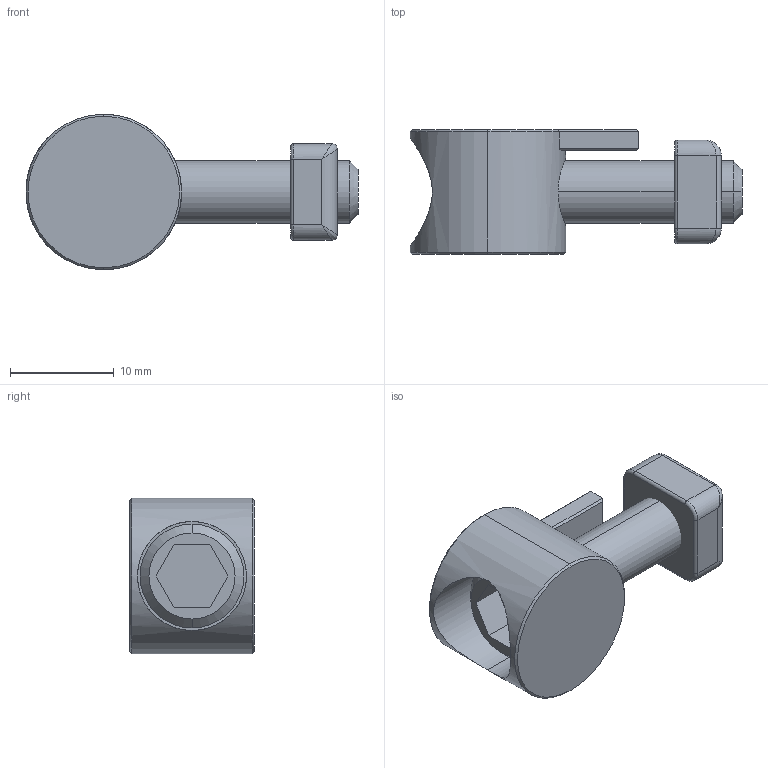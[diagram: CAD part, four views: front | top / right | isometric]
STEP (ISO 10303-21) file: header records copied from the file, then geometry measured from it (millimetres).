
FILE_DESCRIPTION (( 'STEP AP203' ), '1' );
FILE_NAME ('WSH0615.STEP', '2024-02-17T06:59:14', ( '' ), ( '' ), 'SwSTEP 2.0', 'SolidWorks 2022', '' );
FILE_SCHEMA (( 'CONFIG_CONTROL_DESIGN' ));
Length unit declared in the file: millimetre
Products named in the file (4): WSH0615; HSC0622; PN06M6
Assembly tree (3 placements, depth 2):
  WSH0615
    WSH0615
    HSC0622
    PN06M6
Bounding box: 32 x 12 x 15 mm (x, y, z)
Volume: 2500.6 mm3; surface area: 2521.2 mm2
Topology: 3 solids, 3 shells, 98 faces, 209 edges, 116 vertices
Faces by surface type: cylinder 32, cone 29, plane 29, bspline 4, torus 4
Entity records: 3211 total; most frequent: CARTESIAN_POINT 720, DIRECTION 468, ORIENTED_EDGE 410, EDGE_CURVE 205, AXIS2_PLACEMENT_3D 179, VERTEX_POINT 116, LINE 110, VECTOR 110
